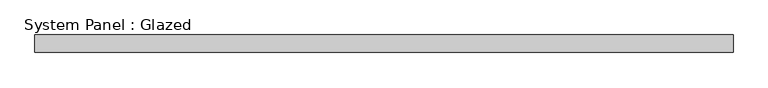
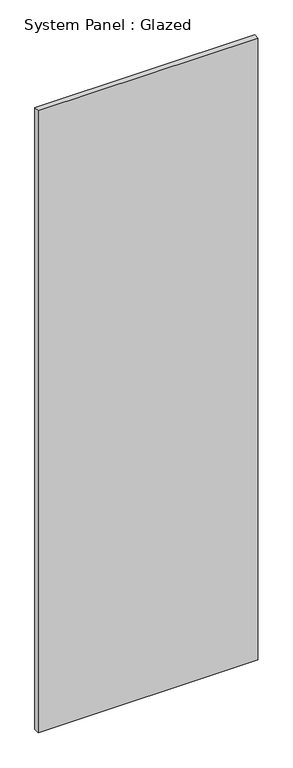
"""IFC4 building model written with IfcOpenShell, lengths in millimetres: plate geometry, System Panel : Glazed."""

from ifc_helpers import new_model, si_unit, origin, origin_with_axes, place, context, project, spatial, polyline, outline, extrude, source, transform, mapped, element, save


def system_panel_glazed_14603bf6(model_context):
    return source(origin(), model_context, "Body", "SweptSolid", [
        extrude(outline(polyline([(498.8140303, -72.5), (-498.8140303, -72.5), (-498.8140303, -47.5), (498.8140303, -47.5), (498.8140303, -72.5)])), origin_with_axes(), (0.0, 0.0, 1.0), 2987.4038106),
    ])


if __name__ == "__main__":
    model = new_model("IFC4")
    model_context = context("Model", 3, world=origin())
    ifc_project = project(units=[si_unit("LENGTHUNIT", "METRE", prefix="MILLI")], contexts=[model_context])
    site = spatial("IfcSite", under=ifc_project)
    building = spatial("IfcBuilding", under=site)
    placement = place(None, origin())
    system_panel_glazed_shape = system_panel_glazed_14603bf6(model_context)
    element("IfcPlate", 1, ObjectType="System Panel : Glazed", at=placement, inside=building, context=model_context, shape_type="MappedRepresentation", body=[
        mapped(system_panel_glazed_shape, transform((0.0, 0.0, 0.0), x_axis=(1.0, 0.0, 0.0), y_axis=(0.0, 1.0, 0.0), z_axis=(0.0, 0.0, 1.0))),
    ])
    save(model, "model.ifc")
